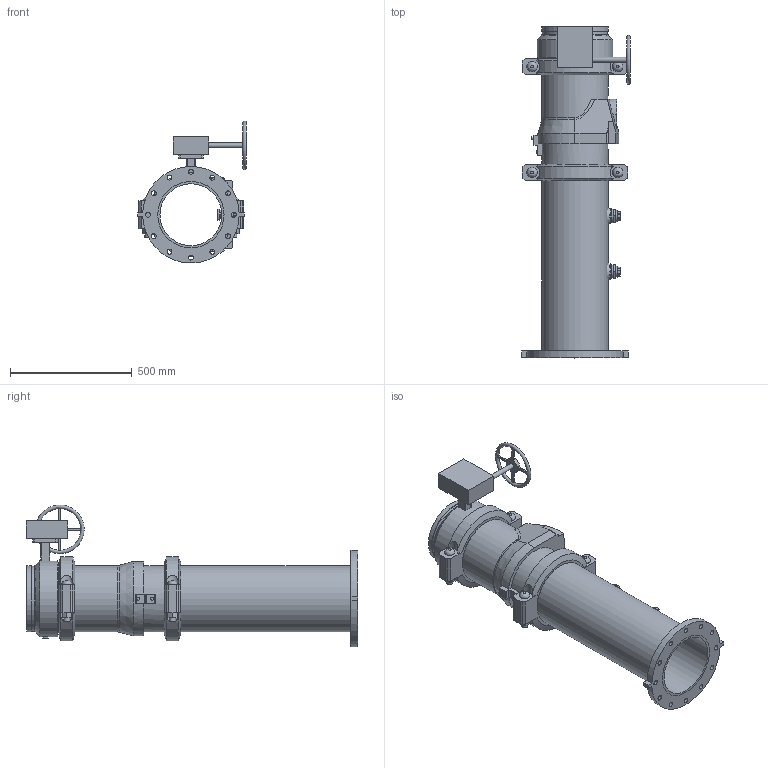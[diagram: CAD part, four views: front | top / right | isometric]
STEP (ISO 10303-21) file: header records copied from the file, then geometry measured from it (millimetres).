
FILE_DESCRIPTION(/* description */ ('VIC DVI PUMP DROP VERT S/390 (OGSxFLG)','CAx-IF Rec.Pracs.---Representation and Presentation of Product Manufacturing Information (PMI)---4.0---2014-10-13'),/* implementation_level */ '2;1');
FILE_NAME(/* name */ 'C:\Users\Vjadhav\AppData\Roaming\Autodesk\ApplicationPlugins\Back Up\Victaulic_IPS_Vertical DVI_PN10_Series 390 (OGSxFLG)\Victaulic_IPS_Vertical DVI_PN10_Series 390 (OGSxFLG)_10.0x10.0 (250x250).stp',/* time_stamp */ '2020-11-09T17:52:11+05:00',/* author */ ('Vjadhav'),/* organization */ ('Victaulic'),/* preprocessor_version */ 'ST-DEVELOPER v17.2',/* originating_system */ 'Autodesk Inventor 2019',/* authorisation */ '');
FILE_SCHEMA (('AP242_MANAGED_MODEL_BASED_3D_ENGINEERING_MIM_LF { 1 0 10303 442 1 1 4 }'));
Length unit declared in the file: inch
Products named in the file (7): 390-10.0x10.0; 741-10.0; Pipe-10.0x10.0; 716-10.0; 923-10.0x0.75; 761-10.0; 077-10.0
Assembly tree (8 placements, depth 2):
  390-10.0x10.0
    741-10.0
    Pipe-10.0x10.0
    716-10.0
    923-10.0x0.75  x2
    761-10.0
    077-10.0  x2
Bounding box: 447.17 x 1364.74 x 584.06 mm (x, y, z)
Volume: 24521029.3 mm3; surface area: 3438216.2 mm2
Topology: 8 solids, 13 shells, 402 faces, 1017 edges, 688 vertices
Faces by surface type: plane 241, cylinder 135, cone 14, bspline 6, torus 6
Full cylindrical faces by diameter (mm): 10.922 x4, 12.7 x3, 20.066 x13, 21.336 x2, 22.86 x1, 25.4 x8, 26.67 x2, 27.432 x4, 45.974 x4, 55.626 x2, 63.079 x1, 70.104 x1, 76.2 x2, 254.508 x2, 260.35 x1, 264.16 x2, 268.275 x6, 273.05 x16, 311.15 x1
Entity records: 9780 total; most frequent: CARTESIAN_POINT 1975, DIRECTION 1581, ORIENTED_EDGE 1452, EDGE_CURVE 726, AXIS2_PLACEMENT_3D 607, VERTEX_POINT 495, LINE 367, VECTOR 367
